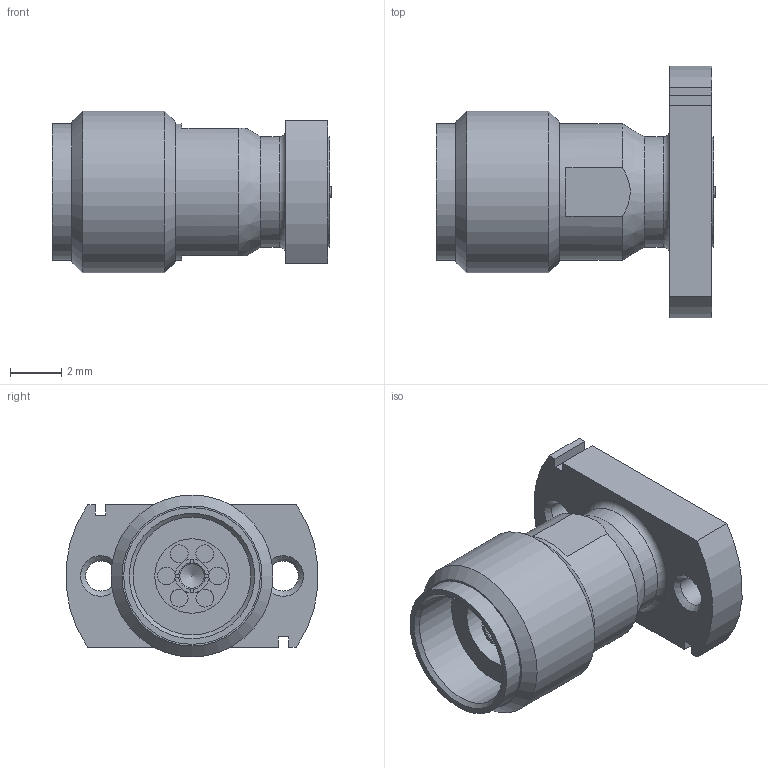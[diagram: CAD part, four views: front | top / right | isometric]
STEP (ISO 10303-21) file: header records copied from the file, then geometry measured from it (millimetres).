
FILE_DESCRIPTION(/* description */ ('STEP AP214'),/* implementation_level */ '2;1');
FILE_NAME(/* name */ '292-J-P-EP-ST-CM-1',/* time_stamp */ '2024-04-04T11:01:34+02:00',/* author */ ('License CC BY-ND 4.0'),/* organization */ ('CADENAS'),/* preprocessor_version */ 'ST-DEVELOPER v19.3',/* originating_system */ 'PARTsolutions',/* authorisation */ ' ');
FILE_SCHEMA (('AUTOMOTIVE_DESIGN {1 0 10303 214 3 1 1}'));
Length unit declared in the file: inch
Products named in the file (3): 292-J-P-EP-ST-CM-1; 292-J-P-EP-ST-CM-1_BODY; 292-J-P-CM_PIN
Assembly tree (2 placements, depth 2):
  292-J-P-EP-ST-CM-1
    292-J-P-EP-ST-CM-1_BODY
    292-J-P-CM_PIN
Bounding box: 10.95 x 9.87 x 6.35 mm (x, y, z)
Volume: 251.8 mm3; surface area: 470.8 mm2
Topology: 2 solids, 2 shells, 91 faces, 224 edges, 140 vertices
Faces by surface type: plane 49, cylinder 24, cone 17, torus 1
Full cylindrical faces by diameter (mm): 0.394 x1, 0.699 x6, 0.914 x2, 0.952 x1, 1.181 x2, 1.27 x2, 1.321 x1, 2.921 x1, 4.318 x1, 4.343 x1, 4.613 x1, 5.359 x2, 6.35 x1
Entity records: 2544 total; most frequent: CARTESIAN_POINT 455, DIRECTION 446, ORIENTED_EDGE 356, AXIS2_PLACEMENT_3D 192, EDGE_CURVE 178, FACE_BOUND 145, EDGE_LOOP 144, VERTEX_POINT 127
